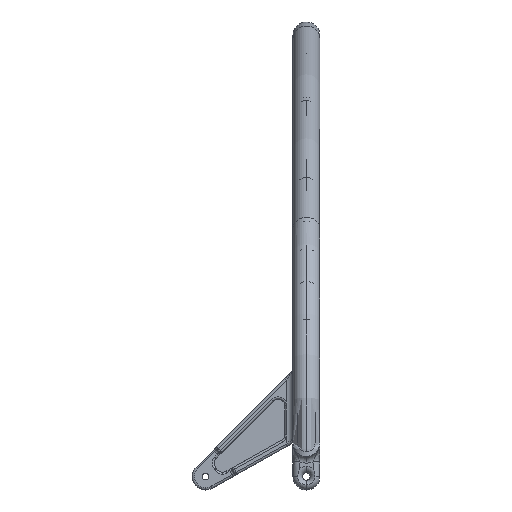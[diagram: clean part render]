
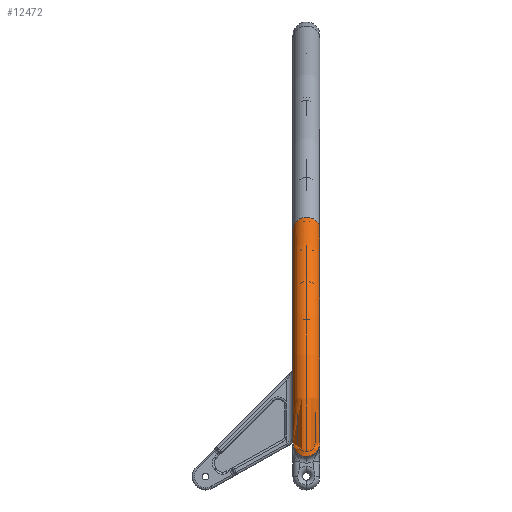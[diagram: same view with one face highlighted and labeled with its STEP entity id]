
A CAD part, left-side view. The second image highlights one B-rep face of the part: STEP entity #12472.
In plain terms, the highlighted toroidal (fillet/blend) face has major radius 38 mm and minor radius 2 mm.
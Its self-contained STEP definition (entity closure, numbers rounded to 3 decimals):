
#395 = CARTESIAN_POINT ( 'NONE',  ( -144.469, -1.963, 1.556 ) ) ;
#518 = CARTESIAN_POINT ( 'NONE',  ( -106.024, 0., 1.396 ) ) ;
#1066 = VERTEX_POINT ( 'NONE', #33828 ) ;
#3024 = CARTESIAN_POINT ( 'NONE',  ( -144.247, 2., 1.776 ) ) ;
#3401 = CARTESIAN_POINT ( 'NONE',  ( -144.902, -1.812, 1.122 ) ) ;
#5925 = CARTESIAN_POINT ( 'NONE',  ( -145.658, 1.143, 0.353 ) ) ;
#6182 = CARTESIAN_POINT ( 'NONE',  ( -145.981, -0.321, 0.02 ) ) ;
#6311 = CARTESIAN_POINT ( 'NONE',  ( -145.982, 0.316, 0.019 ) ) ;
#6767 = CIRCLE ( 'NONE', #24221, 38. ) ;
#7612 = DIRECTION ( 'NONE',  ( 0., 1., 0. ) ) ;
#7668 = DIRECTION ( 'NONE',  ( -0.521, 0., 0.854 ) ) ;
#8505 = EDGE_CURVE ( 'NONE', #34051, #32842, #23221, .T. ) ;
#8875 = CARTESIAN_POINT ( 'NONE',  ( -144.247, -2., 1.776 ) ) ;
#9112 = ORIENTED_EDGE ( 'NONE', *, *, #34450, .T. ) ;
#9267 = DIRECTION ( 'NONE',  ( 0., 0., 1. ) ) ;
#11363 = CIRCLE ( 'NONE', #28380, 38. ) ;
#11636 = CARTESIAN_POINT ( 'NONE',  ( -144.02, 2., 2. ) ) ;
#11804 = CARTESIAN_POINT ( 'NONE',  ( -145.91, -0.623, 0.093 ) ) ;
#12040 = CARTESIAN_POINT ( 'NONE',  ( -145.115, 1.694, 0.907 ) ) ;
#12169 = CARTESIAN_POINT ( 'NONE',  ( -146., -0.162, 0. ) ) ;
#12472 = ADVANCED_FACE ( 'NONE', ( #31489 ), #16103, .T. ) ;
#13278 = DIRECTION ( 'NONE',  ( 0., -1., 0. ) ) ;
#13872 = CIRCLE ( 'NONE', #31150, 2. ) ;
#14674 = CARTESIAN_POINT ( 'NONE',  ( -144.02, -2., 2. ) ) ;
#14810 = CARTESIAN_POINT ( 'NONE',  ( -145.399, -1.451, 0.618 ) ) ;
#15065 = CARTESIAN_POINT ( 'NONE',  ( -145.491, -1.357, 0.524 ) ) ;
#15652 = EDGE_LOOP ( 'NONE', ( #31243, #20572, #36560, #9112 ) ) ;
#16103 = TOROIDAL_SURFACE ( 'NONE', #30422, 38., 2. ) ;
#16496 = EDGE_CURVE ( 'NONE', #34051, #1066, #11363, .T. ) ;
#17665 = CARTESIAN_POINT ( 'NONE',  ( -144.47, 1.964, 1.554 ) ) ;
#18790 = CARTESIAN_POINT ( 'NONE',  ( -106.024, -2., 1.396 ) ) ;
#19491 = DIRECTION ( 'NONE',  ( -0.854, 0., -0.521 ) ) ;
#19575 = VERTEX_POINT ( 'NONE', #25206 ) ;
#20334 = CARTESIAN_POINT ( 'NONE',  ( -145.493, 1.354, 0.522 ) ) ;
#20457 = CARTESIAN_POINT ( 'NONE',  ( -145.733, 1.024, 0.276 ) ) ;
#20572 = ORIENTED_EDGE ( 'NONE', *, *, #8505, .T. ) ;
#20722 = DIRECTION ( 'NONE',  ( 0., 1., 0. ) ) ;
#21524 = CARTESIAN_POINT ( 'NONE',  ( -106.024, 2., 1.396 ) ) ;
#21773 = DIRECTION ( 'NONE',  ( 0., 0., 1. ) ) ;
#22790 = CARTESIAN_POINT ( 'NONE',  ( -144.02, -2., 2. ) ) ;
#22990 = EDGE_CURVE ( 'NONE', #19575, #32842, #6767, .T. ) ;
#23221 = B_SPLINE_CURVE_WITH_KNOTS ( 'NONE', 3,
 ( #23237, #3024, #17665, #31973, #12040, #34862, #20334, #5925, #20457, #32097, #26180, #6311, #23493, #12169, #6182, #11804, #29052, #29191, #32346, #15065, #14810, #34985, #3401, #395, #8875, #14674 ),
 .UNSPECIFIED., .F., .F.,
 ( 4, 2, 2, 2, 2, 2, 2, 2, 2, 2, 2, 2, 4 ),
 ( -0.004, -0.003, -0.002, -0.001, -0.001, 0., 0., 0.001, 0.001, 0.001, 0.002, 0.003, 0.004 ),
 .UNSPECIFIED. ) ;
#23237 = CARTESIAN_POINT ( 'NONE',  ( -144.02, 2., 2. ) ) ;
#23493 = CARTESIAN_POINT ( 'NONE',  ( -146., 0.16, 0. ) ) ;
#24221 = AXIS2_PLACEMENT_3D ( 'NONE', #18790, #13278, #24388 ) ;
#24388 = DIRECTION ( 'NONE',  ( 0., 0., 1. ) ) ;
#25206 = CARTESIAN_POINT ( 'NONE',  ( -125.816, -2., 33.835 ) ) ;
#26180 = CARTESIAN_POINT ( 'NONE',  ( -145.911, 0.619, 0.092 ) ) ;
#28380 = AXIS2_PLACEMENT_3D ( 'NONE', #21524, #7612, #21773 ) ;
#29052 = CARTESIAN_POINT ( 'NONE',  ( -145.859, -0.765, 0.146 ) ) ;
#29191 = CARTESIAN_POINT ( 'NONE',  ( -145.731, -1.028, 0.278 ) ) ;
#30422 = AXIS2_PLACEMENT_3D ( 'NONE', #518, #20722, #9267 ) ;
#31150 = AXIS2_PLACEMENT_3D ( 'NONE', #36700, #19491, #7668 ) ;
#31243 = ORIENTED_EDGE ( 'NONE', *, *, #16496, .F. ) ;
#31489 = FACE_OUTER_BOUND ( 'NONE', #15652, .T. ) ;
#31973 = CARTESIAN_POINT ( 'NONE',  ( -144.908, 1.809, 1.116 ) ) ;
#32097 = CARTESIAN_POINT ( 'NONE',  ( -145.86, 0.762, 0.145 ) ) ;
#32346 = CARTESIAN_POINT ( 'NONE',  ( -145.656, -1.145, 0.354 ) ) ;
#32842 = VERTEX_POINT ( 'NONE', #22790 ) ;
#33828 = CARTESIAN_POINT ( 'NONE',  ( -125.816, 2., 33.835 ) ) ;
#34051 = VERTEX_POINT ( 'NONE', #11636 ) ;
#34450 = EDGE_CURVE ( 'NONE', #19575, #1066, #13872, .T. ) ;
#34862 = CARTESIAN_POINT ( 'NONE',  ( -145.402, 1.448, 0.615 ) ) ;
#34985 = CARTESIAN_POINT ( 'NONE',  ( -145.114, -1.695, 0.908 ) ) ;
#36560 = ORIENTED_EDGE ( 'NONE', *, *, #22990, .F. ) ;
#36700 = CARTESIAN_POINT ( 'NONE',  ( -125.816, 0., 33.835 ) ) ;
